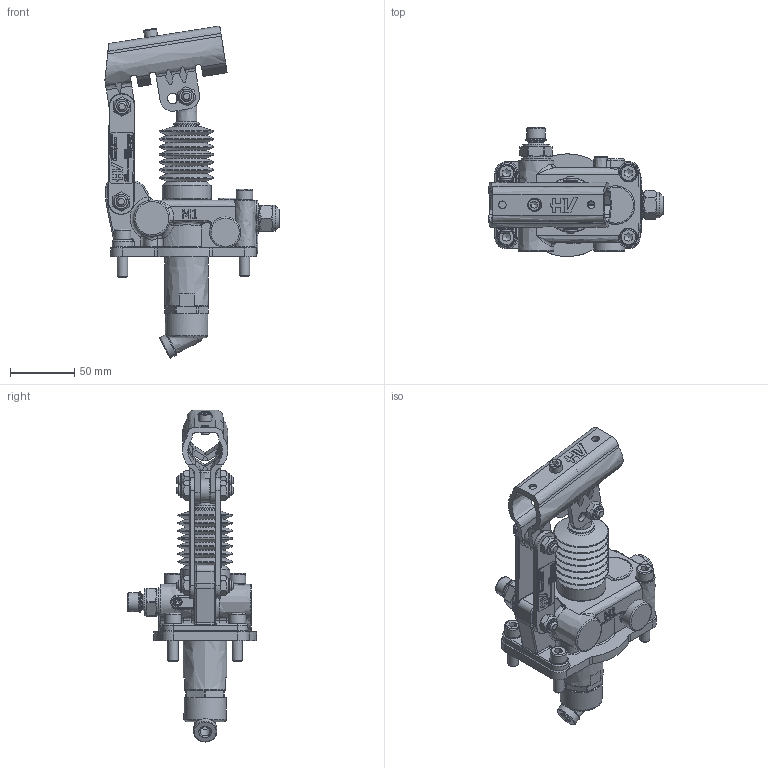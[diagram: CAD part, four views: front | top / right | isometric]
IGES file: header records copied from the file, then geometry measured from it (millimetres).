
Global section: file name: No Iges File Name specified; native system: Autodesk Inventor 2013; preprocessor: AutoDesk Inventor Iges Exporter R2013; author: christian.scardovi; date: 20240326.071200; units: millimetre
Bounding box: 135.7 x 100.49 x 258.56 mm (x, y, z)
Volume: 455372 mm3; surface area: 115434.1 mm2
Topology: 3 solids, 3 shells, 1443 faces, 3666 edges, 2322 vertices
Faces by surface type: bspline 1443
